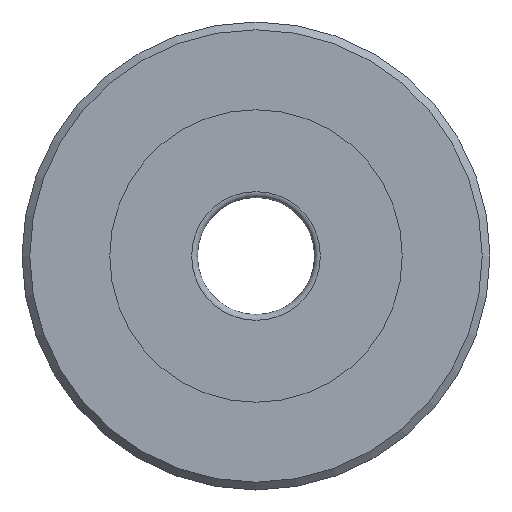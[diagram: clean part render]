
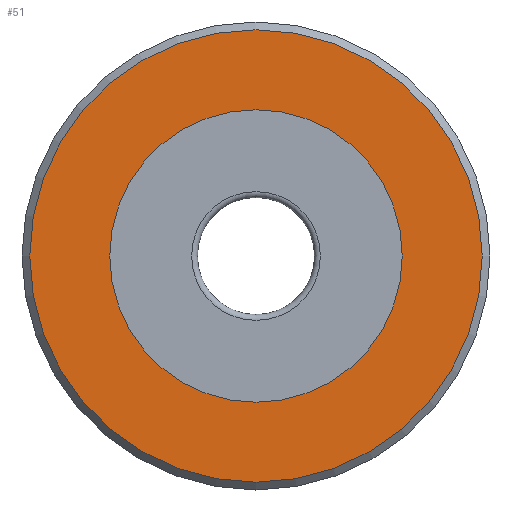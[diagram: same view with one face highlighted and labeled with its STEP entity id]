
A CAD part, left-side view. The second image highlights one B-rep face of the part: STEP entity #51.
In plain terms, the highlighted planar face has unit normal (-1, 0, 0).
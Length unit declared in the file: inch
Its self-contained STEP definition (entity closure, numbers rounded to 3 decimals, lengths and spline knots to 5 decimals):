
#24=CARTESIAN_POINT('',(11.,21.8,0.));
#25=VERTEX_POINT('',#24);
#26=CARTESIAN_POINT('',(11.,16.,0.));
#27=DIRECTION('',(-1.,0.,0.));
#28=DIRECTION('',(0.,1.,0.));
#29=AXIS2_PLACEMENT_3D('',#26,#27,#28);
#30=CIRCLE('',#29,5.8);
#31=EDGE_CURVE('',#25,#25,#30,.T.);
#32=ORIENTED_EDGE('',*,*,#31,.T.);
#33=EDGE_LOOP('',(#32));
#34=FACE_OUTER_BOUND('',#33,.T.);
#35=CARTESIAN_POINT('',(11.,19.75,0.));
#36=VERTEX_POINT('',#35);
#37=CARTESIAN_POINT('',(11.,16.,0.));
#38=DIRECTION('',(-1.,0.,0.));
#39=DIRECTION('',(0.,1.,0.));
#40=AXIS2_PLACEMENT_3D('',#37,#38,#39);
#41=CIRCLE('',#40,3.75);
#42=EDGE_CURVE('',#36,#36,#41,.T.);
#43=ORIENTED_EDGE('',*,*,#42,.F.);
#44=EDGE_LOOP('',(#43));
#45=FACE_BOUND('',#44,.T.);
#46=CARTESIAN_POINT('',(11.,20.775,0.));
#47=DIRECTION('',(-1.,0.,0.));
#48=DIRECTION('',(0.,1.,0.));
#49=AXIS2_PLACEMENT_3D('',#46,#47,#48);
#50=PLANE('',#49);
#51=ADVANCED_FACE('',(#34,#45),#50,.T.);
